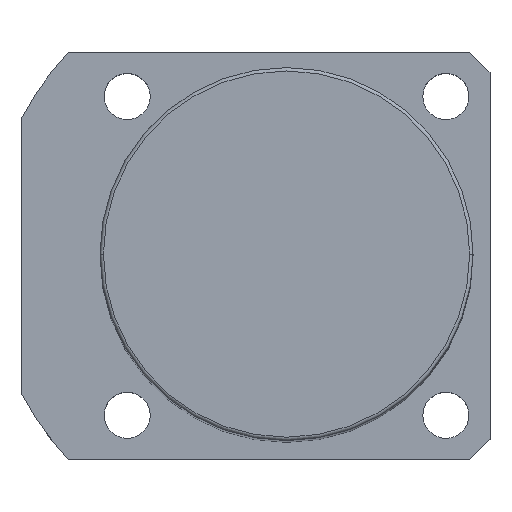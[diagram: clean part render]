
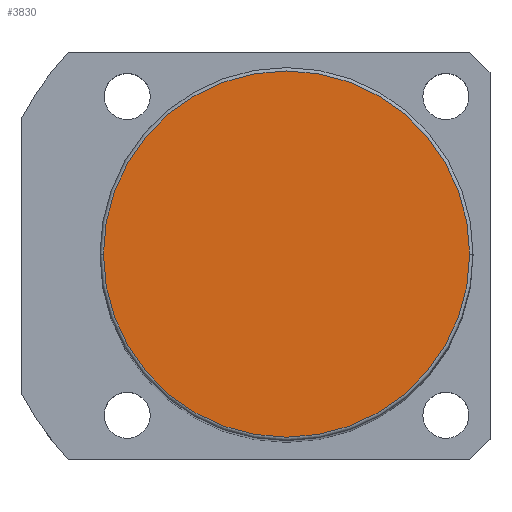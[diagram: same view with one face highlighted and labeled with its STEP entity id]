
A CAD part, top view. The second image highlights one B-rep face of the part: STEP entity #3830.
In plain terms, the highlighted planar face has unit normal (0, 0, 1).
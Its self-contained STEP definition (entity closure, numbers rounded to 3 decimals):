
#225 = VERTEX_POINT ( 'NONE', #4616 ) ;
#304 = DIRECTION ( 'NONE',  ( 0., 0., 1. ) ) ;
#401 = FACE_OUTER_BOUND ( 'NONE', #1701, .T. ) ;
#746 = CIRCLE ( 'NONE', #1007, 27. ) ;
#786 = AXIS2_PLACEMENT_3D ( 'NONE', #2667, #304, #3077 ) ;
#788 = PLANE ( 'NONE',  #4076 ) ;
#1007 = AXIS2_PLACEMENT_3D ( 'NONE', #4379, #2019, #4792 ) ;
#1198 = CARTESIAN_POINT ( 'NONE',  ( 0., 0., 161. ) ) ;
#1645 = ORIENTED_EDGE ( 'NONE', *, *, #1795, .T. ) ;
#1701 = EDGE_LOOP ( 'NONE', ( #4466, #1645 ) ) ;
#1795 = EDGE_CURVE ( 'NONE', #225, #2449, #3110, .T. ) ;
#2019 = DIRECTION ( 'NONE',  ( 0., 0., 1. ) ) ;
#2382 = DIRECTION ( 'NONE',  ( 0., 0., 1. ) ) ;
#2416 = CARTESIAN_POINT ( 'NONE',  ( 27., 0., 161. ) ) ;
#2442 = EDGE_CURVE ( 'NONE', #2449, #225, #746, .T. ) ;
#2449 = VERTEX_POINT ( 'NONE', #2416 ) ;
#2667 = CARTESIAN_POINT ( 'NONE',  ( 0., 0., 161. ) ) ;
#3077 = DIRECTION ( 'NONE',  ( 1., 0., 0. ) ) ;
#3110 = CIRCLE ( 'NONE', #786, 27. ) ;
#3830 = ADVANCED_FACE ( 'NONE', ( #401 ), #788, .T. ) ;
#4076 = AXIS2_PLACEMENT_3D ( 'NONE', #1198, #2382, #4364 ) ;
#4364 = DIRECTION ( 'NONE',  ( 1., 0., 0. ) ) ;
#4379 = CARTESIAN_POINT ( 'NONE',  ( 0., 0., 161. ) ) ;
#4466 = ORIENTED_EDGE ( 'NONE', *, *, #2442, .T. ) ;
#4616 = CARTESIAN_POINT ( 'NONE',  ( -27., 0., 161. ) ) ;
#4792 = DIRECTION ( 'NONE',  ( 1., 0., 0. ) ) ;
